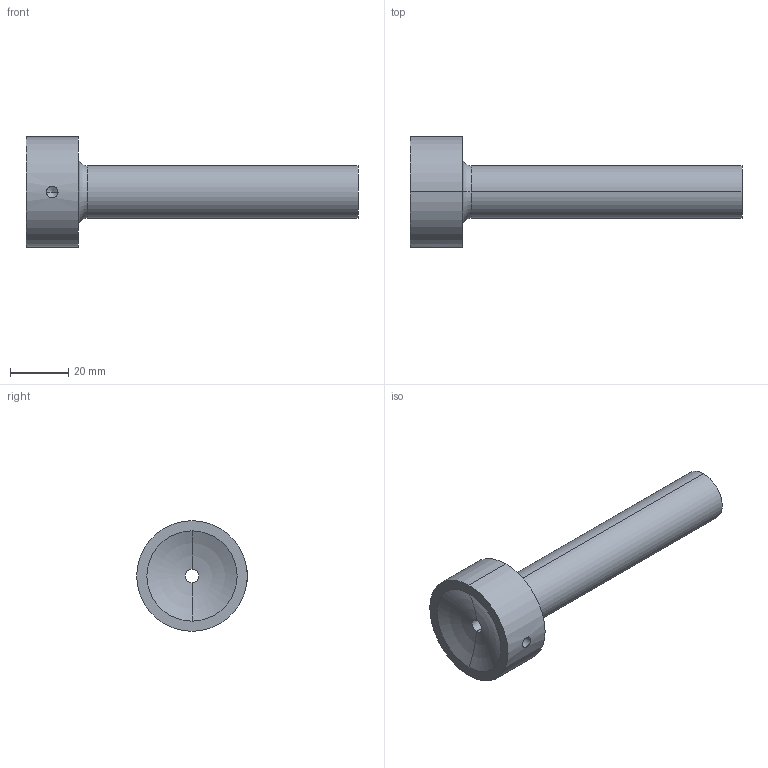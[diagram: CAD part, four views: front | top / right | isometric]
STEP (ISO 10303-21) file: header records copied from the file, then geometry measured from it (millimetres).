
FILE_DESCRIPTION (( 'STEP AP214' ), '1' );
FILE_NAME ('BR51 18x96x4,5x40.STEP', '2019-06-05T15:27:30', ( 'August' ), ( '' ), 'SwSTEP 2.0', 'SolidWorks 2018', '' );
FILE_SCHEMA (( 'AUTOMOTIVE_DESIGN' ));
Length unit declared in the file: millimetre
Products named in the file (1): BR51 18x96x4,5x40
Bounding box: 114 x 38 x 38 mm (x, y, z)
Volume: 38816 mm3; surface area: 12290.4 mm2
Topology: 1 solids, 1 shells, 17 faces, 36 edges, 21 vertices
Faces by surface type: cylinder 6, cone 4, torus 4, plane 3
Entity records: 538 total; most frequent: CARTESIAN_POINT 127, DIRECTION 90, ORIENTED_EDGE 68, AXIS2_PLACEMENT_3D 40, EDGE_CURVE 34, CIRCLE 22, EDGE_LOOP 21, VERTEX_POINT 21
